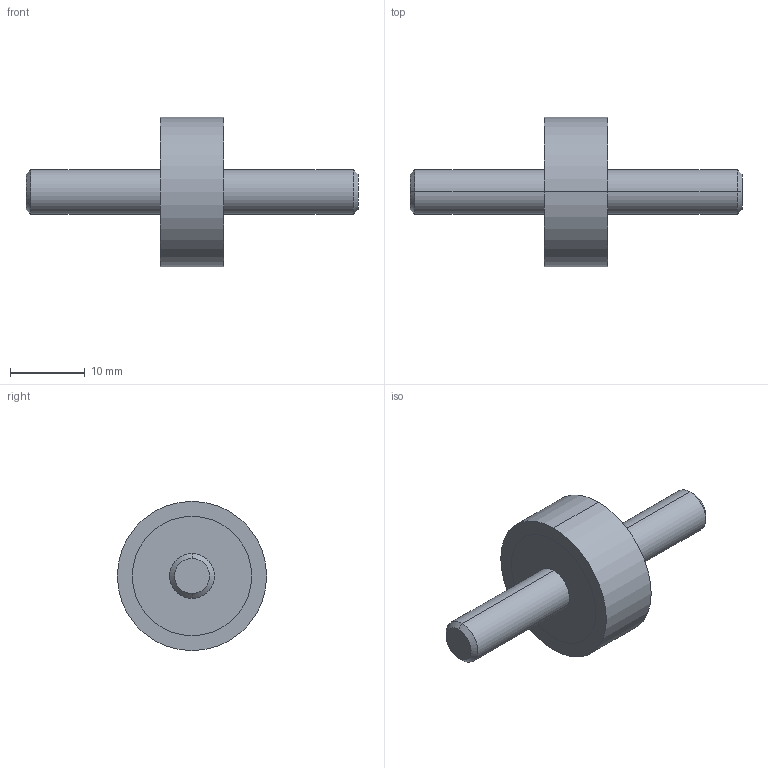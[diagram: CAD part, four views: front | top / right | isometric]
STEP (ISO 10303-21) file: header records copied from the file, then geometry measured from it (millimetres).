
FILE_DESCRIPTION (( 'STEP AP214' ), '1' );
FILE_NAME ('351-20-8,5-M6-SS-70.step', '2025-07-23T09:44:46', ( '' ), ( '' ), 'SwSTEP 2.0', 'SolidWorks 2022', '' );
FILE_SCHEMA (( 'AUTOMOTIVE_DESIGN' ));
Length unit declared in the file: millimetre
Products named in the file (1): 351-20-8,5-M6-SS-70
Bounding box: 44.5 x 20 x 20 mm (x, y, z)
Volume: 3677.4 mm3; surface area: 1826.9 mm2
Topology: 1 solids, 1 shells, 20 faces, 38 edges, 24 vertices
Faces by surface type: cylinder 10, plane 6, cone 4
Entity records: 636 total; most frequent: DIRECTION 104, CARTESIAN_POINT 83, ORIENTED_EDGE 76, AXIS2_PLACEMENT_3D 45, EDGE_CURVE 38, EDGE_LOOP 24, VERTEX_POINT 24, CIRCLE 24
